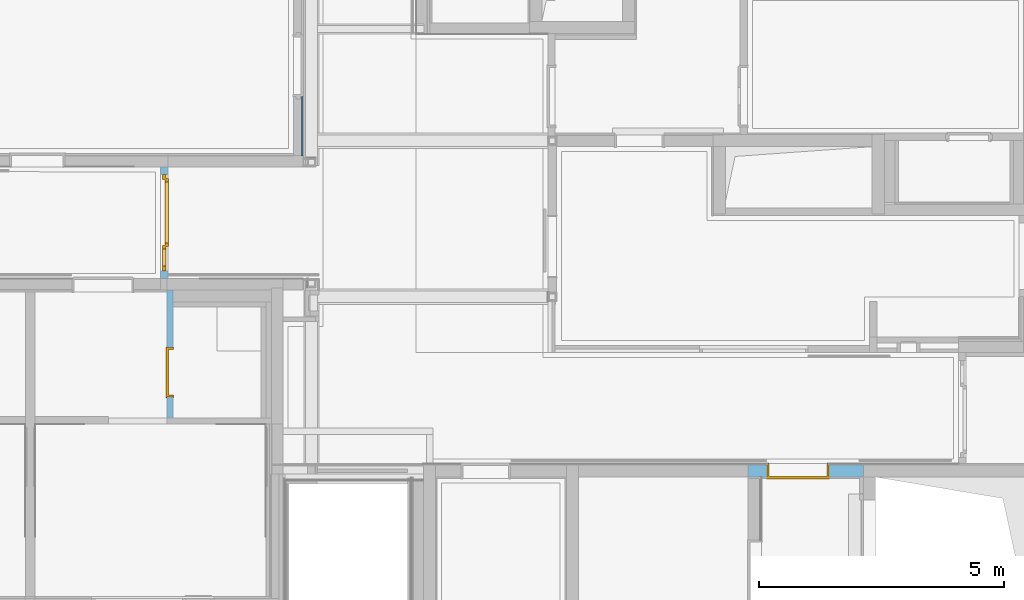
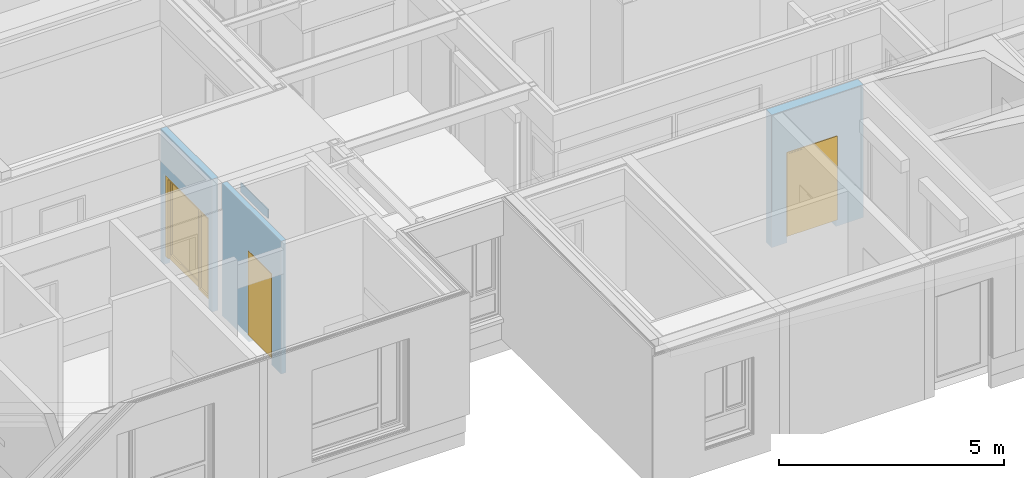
# One storey, part 89 of 207: 3 doors, 1 wall, 3 openings, plus 3 elements that do not belong to this part.
"""IFC4 building model written with IfcOpenShell, lengths in metres."""

import ifcopenshell
import ifcopenshell.guid

model = None  # the IFC model being written
_history = None  # IfcOwnerHistory: only IFC2X3 demands one
_inside = {}  # id of a spatial element -> (the spatial element, [elements in it])
_under = {}  # id of a project, library or spatial element -> (it, [spatial elements below it])
_declared = {}  # id of a project -> (the project, [libraries it declares])
_typed = {}  # id of a type object -> (the type object, [elements of that type])
_made_of = {}  # id of a material, layer set ... -> (it, [elements and type objects made of it])


def new_model(schema):
    """Start an empty IFC model of exactly this schema.

    Asked for "IFC4X3", IfcOpenShell would pick the latest addendum, in which some entities
    have other attributes; the version numbers below select the first issue.
    IFC2X3 requires an IfcOwnerHistory on every rooted entity: one is made here for all.
    """
    global model, _history
    if schema == "IFC4X3":
        model = ifcopenshell.file(schema_version=(4, 3, 0, 0))
    else:
        model = ifcopenshell.file(schema=schema)
    _inside.clear()
    _under.clear()
    _declared.clear()
    _typed.clear()
    _made_of.clear()
    _history = None
    if model.schema == "IFC2X3":
        org = make("IfcOrganization", Name="unknown")
        user = make(
            "IfcPersonAndOrganization",
            ThePerson=make("IfcPerson", FamilyName="unknown"),
            TheOrganization=org,
        )
        app = make(
            "IfcApplication",
            ApplicationDeveloper=org,
            Version="unknown",
            ApplicationFullName="unknown",
            ApplicationIdentifier="unknown",
        )
        _history = make(
            "IfcOwnerHistory",
            OwningUser=user,
            OwningApplication=app,
            ChangeAction="ADDED",
            CreationDate=0,
        )
    return model


def make(cls, **values):
    """One entity of the class cls with the attributes given. An attribute that is None is left unset."""
    return model.create_entity(
        cls, **{name: value for name, value in values.items() if value is not None}
    )


def entity(cls, *values):
    """Any entity or typed value of the class cls, its attributes in the order of the schema. None: left unset."""
    e = model.create_entity(cls)
    for i, value in enumerate(values):
        if value is not None:
            e[i] = value
    return e


def rooted(cls, **values):
    """An entity with a GlobalId (a new one), such as an element, a storey or a relation."""
    return make(cls, GlobalId=ifcopenshell.guid.new(), OwnerHistory=_history, **values)


def si_unit(unit_type, name, prefix=None):
    """IfcSIUnit, for example si_unit("LENGTHUNIT", "METRE", prefix="MILLI")."""
    return make("IfcSIUnit", UnitType=unit_type, Prefix=prefix, Name=name)


def converted_unit(unit_type, name, factor, base, dimensions=None, offset=None):
    """IfcConversionBasedUnit, such as the inch: factor (a typed value) times the base unit."""
    return make(
        "IfcConversionBasedUnit"
        if offset is None
        else "IfcConversionBasedUnitWithOffset",
        ConversionOffset=offset,
        Dimensions=None
        if dimensions is None
        else entity("IfcDimensionalExponents", *dimensions),
        UnitType=unit_type,
        Name=name,
        ConversionFactor=make(
            "IfcMeasureWithUnit", ValueComponent=factor, UnitComponent=base
        ),
    )


def derived_unit(unit_type, elements):
    """IfcDerivedUnit: a product of units, each with its exponent."""
    return make(
        "IfcDerivedUnit",
        Elements=[
            make("IfcDerivedUnitElement", Unit=unit, Exponent=power)
            for unit, power in elements
        ],
        UnitType=unit_type,
    )


def assignment(units):
    """IfcUnitAssignment: the units of a project."""
    return None if units is None else make("IfcUnitAssignment", Units=units)


def point(xyz):
    """IfcCartesianPoint."""
    return None if xyz is None else make("IfcCartesianPoint", Coordinates=xyz)


def direction(xyz):
    """IfcDirection."""
    return None if xyz is None else make("IfcDirection", DirectionRatios=xyz)


def frame(location, z_axis=None, x_axis=None):
    """IfcAxis2Placement3D, a coordinate frame: its origin and axes. An axis left out is left unset."""
    return make(
        "IfcAxis2Placement3D",
        Location=point(location),
        Axis=direction(z_axis),
        RefDirection=direction(x_axis),
    )


def frame_2d(location, x_axis=None):
    """IfcAxis2Placement2D, a coordinate frame in the plane: its origin and x axis."""
    return make(
        "IfcAxis2Placement2D", Location=point(location), RefDirection=direction(x_axis)
    )


def origin():
    """The frame at (0, 0, 0) with its axes left unset."""
    return frame((0.0, 0.0, 0.0))


def origin_with_axes():
    """The frame at (0, 0, 0) with the z axis (0, 0, 1) and the x axis (1, 0, 0) written out."""
    return frame((0.0, 0.0, 0.0), z_axis=(0.0, 0.0, 1.0), x_axis=(1.0, 0.0, 0.0))


def place(relative_to, where):
    """IfcLocalPlacement: puts the frame where relative to a parent placement (None: the world)."""
    return make(
        "IfcLocalPlacement", PlacementRelTo=relative_to, RelativePlacement=where
    )


def context(
    kind, dimensions, precision=None, world=None, true_north=None, identifier=None
):
    """IfcGeometricRepresentationContext, for example the 3D "Model" context."""
    return make(
        "IfcGeometricRepresentationContext",
        ContextIdentifier=identifier,
        ContextType=kind,
        CoordinateSpaceDimension=dimensions,
        Precision=precision,
        WorldCoordinateSystem=world,
        TrueNorth=true_north,
    )


def subcontext(parent, identifier, kind, view, scale=None):
    """IfcGeometricRepresentationSubContext, for example "Body" below "Model"."""
    return make(
        "IfcGeometricRepresentationSubContext",
        ContextIdentifier=identifier,
        ContextType=kind,
        ParentContext=parent,
        TargetScale=scale,
        TargetView=view,
    )


def project(units=None, contexts=None):
    """IfcProject with its units and contexts."""
    return rooted(
        "IfcProject",
        Name="project",
        RepresentationContexts=contexts,
        UnitsInContext=assignment(units),
    )


def spatial(cls, under=None, at=None, **own):
    """A site, building, storey or space (cls), placed at a placement, below another one or the project."""
    s = rooted(cls, ObjectPlacement=at, **own)
    if under is not None:
        _under.setdefault(under.id(), (under, []))[1].append(s)
    return s


def polyline(points):
    """IfcPolyline through the points."""
    return make("IfcPolyline", Points=[point(p) for p in points])


def profile(cls, at=None, kind="AREA", **sizes):
    """A parametric profile (cls). Its sizes go by their IFC names, for example OverallWidth=200.0."""
    return make(cls, ProfileType=kind, Position=at, **sizes)


def rectangle(**sizes):
    """IfcRectangleProfileDef."""
    return profile("IfcRectangleProfileDef", **sizes)


def outline(outer, holes=None, kind="AREA"):
    """IfcArbitraryClosedProfileDef: a profile drawn as a closed curve; with holes, ...WithVoids."""
    if holes is None:
        return make("IfcArbitraryClosedProfileDef", ProfileType=kind, OuterCurve=outer)
    return make(
        "IfcArbitraryProfileDefWithVoids",
        ProfileType=kind,
        OuterCurve=outer,
        InnerCurves=holes,
    )


def extrude(swept, where, along, depth):
    """IfcExtrudedAreaSolid: the profile swept, set in the frame where, extruded along a direction by depth."""
    return make(
        "IfcExtrudedAreaSolid",
        SweptArea=swept,
        Position=where,
        ExtrudedDirection=direction(along),
        Depth=depth,
    )


def faces_of(points, faces, orient=None, outer=None):
    """IfcFace entities. A face is a list of loops; a loop is a list of indices into points, from 0.

    orient and outer hold one flag for each loop. By default every Orientation is true, the
    first loop of a face is its IfcFaceOuterBound and the others are IfcFaceBound.
    """
    made = []
    for i, loops in enumerate(faces):
        bounds = []
        for j, loop in enumerate(loops):
            is_outer = j == 0 if outer is None else outer[i][j]
            bounds.append(
                make(
                    "IfcFaceOuterBound" if is_outer else "IfcFaceBound",
                    Bound=make("IfcPolyLoop", Polygon=[points[k] for k in loop]),
                    Orientation=True if orient is None else orient[i][j],
                )
            )
        made.append(make("IfcFace", Bounds=bounds))
    return made


def closed_shell(faces, orient=None, outer=None):
    """The faces of one IfcClosedShell. faceted_brep and surface_model build it on their shared points."""
    return ("IfcClosedShell", faces, orient, outer)


def open_shell(faces, orient=None, outer=None):
    """The faces of one IfcOpenShell. surface_model builds it on its shared points."""
    return ("IfcOpenShell", faces, orient, outer)


def faceted_brep(points, faces, orient=None, outer=None, voids=None):
    """IfcFacetedBrep: a solid bounded by flat faces; with voids (closed shells), ...WithVoids."""
    shared = [point(p) for p in points]
    hull = make("IfcClosedShell", CfsFaces=faces_of(shared, faces, orient, outer))
    if voids is None:
        return make("IfcFacetedBrep", Outer=hull)
    return make(
        "IfcFacetedBrepWithVoids",
        Outer=hull,
        Voids=[
            make(cls, CfsFaces=faces_of(shared, fs, o, b)) for cls, fs, o, b in voids
        ],
    )


def surface_model(cls, points, shells):
    """IfcFaceBasedSurfaceModel or IfcShellBasedSurfaceModel (cls): surfaces that need not close."""
    shared = [point(p) for p in points]
    made = [make(c, CfsFaces=faces_of(shared, fs, o, b)) for c, fs, o, b in shells]
    if cls == "IfcFaceBasedSurfaceModel":
        return make(cls, FbsmFaces=made)
    return make(cls, SbsmBoundary=made)


def shape(context_of_items, identifier, shape_type, items):
    """IfcShapeRepresentation: the items that make up one representation, for example the "Body"."""
    return make(
        "IfcShapeRepresentation",
        ContextOfItems=context_of_items,
        RepresentationIdentifier=identifier,
        RepresentationType=shape_type,
        Items=items,
    )


def source(mapping_origin, context_of_items, identifier, shape_type, items):
    """IfcRepresentationMap: a shape defined once, which mapped items show again and again."""
    return make(
        "IfcRepresentationMap",
        MappingOrigin=mapping_origin,
        MappedRepresentation=shape(context_of_items, identifier, shape_type, items),
    )


def transform(
    local_origin,
    x_axis=None,
    y_axis=None,
    z_axis=None,
    scale=None,
    scale2=None,
    scale3=None,
    uniform=True,
):
    """IfcCartesianTransformationOperator3D, or its non-uniform kind. x_axis, y_axis, z_axis: its Axis1, 2, 3."""
    if uniform:
        return make(
            "IfcCartesianTransformationOperator3D",
            Axis1=direction(x_axis),
            Axis2=direction(y_axis),
            LocalOrigin=point(local_origin),
            Scale=scale,
            Axis3=direction(z_axis),
        )
    return make(
        "IfcCartesianTransformationOperator3DnonUniform",
        Axis1=direction(x_axis),
        Axis2=direction(y_axis),
        LocalOrigin=point(local_origin),
        Scale=scale,
        Axis3=direction(z_axis),
        Scale2=scale2,
        Scale3=scale3,
    )


def mapped(mapping_source, mapping_target):
    """IfcMappedItem: shows the shape of a source again, moved by a transform."""
    return make(
        "IfcMappedItem", MappingSource=mapping_source, MappingTarget=mapping_target
    )


def material(Name=None, Category=None):
    """IfcMaterial."""
    return make("IfcMaterial", Name=Name, Category=Category)


def made_of(thing, what):
    """Note that an element or type object is made of a material, layer set ...; save() writes the relation."""
    if what is not None:
        _made_of.setdefault(what.id(), (what, []))[1].append(thing)
    return thing


def type_object(cls, material=None, **own):
    """A type object (cls), such as IfcWallType, which elements share."""
    return made_of(rooted(cls, **own), material)


def element(
    cls,
    number,
    at=None,
    inside=None,
    cuts=None,
    type_object=None,
    material=None,
    context=None,
    identifier="Body",
    shape_type=None,
    held_by="IfcProductDefinitionShape",
    body=None,
    shapes=None,
    **own,
):
    """One element of the class cls, such as IfcWall. Its Tag is "e" and its number.

    at: its placement. inside: the storey or other place that contains it. cuts: it is an
    opening in that element (IfcRelVoidsElement). A single representation is given by context,
    identifier, shape_type and body (its items); several are given by shapes. held_by: the class
    of the entity that holds the representations. save() writes the other relations.
    """
    e = rooted(cls, Tag="e%d" % number, ObjectPlacement=at, **own)
    if body is not None:
        shapes = [shape(context, identifier, shape_type, body)]
    if shapes is not None:
        e.Representation = make(held_by, Representations=shapes)
    if inside is not None:
        _inside.setdefault(inside.id(), (inside, []))[1].append(e)
    if cuts is not None:
        rooted(
            "IfcRelVoidsElement", RelatingBuildingElement=cuts, RelatedOpeningElement=e
        )
    if type_object is not None:
        _typed.setdefault(type_object.id(), (type_object, []))[1].append(e)
    return made_of(e, material)


def fill(opening, filler):
    """IfcRelFillsElement: the door or window that sits in an opening."""
    return rooted(
        "IfcRelFillsElement",
        RelatingOpeningElement=opening,
        RelatedBuildingElement=filler,
    )


def aggregate(whole, parts):
    """IfcRelAggregates: a whole, such as a stair, and the parts it consists of."""
    return rooted("IfcRelAggregates", RelatingObject=whole, RelatedObjects=parts)


def save(model, path):
    """Write the relations noted so far, then the file.

    IfcRelAggregates (storeys below a building ...), IfcRelContainedInSpatialStructure (elements
    in a storey), IfcRelDefinesByType, IfcRelAssociatesMaterial and IfcRelDeclares: one each for
    every whole, place, type object, material and project.
    """
    for whole, parts in _under.values():
        aggregate(whole, parts)
    for where, things in _inside.values():
        rooted(
            "IfcRelContainedInSpatialStructure",
            RelatedElements=things,
            RelatingStructure=where,
        )
    for kind, things in _typed.values():
        rooted("IfcRelDefinesByType", RelatedObjects=things, RelatingType=kind)
    for what, things in _made_of.values():
        rooted("IfcRelAssociatesMaterial", RelatedObjects=things, RelatingMaterial=what)
    for by, libraries in _declared.values():
        rooted("IfcRelDeclares", RelatingContext=by, RelatedDefinitions=libraries)
    model.write(path)


model = new_model("IFC4")

# Units and contexts
model_context = context("Model", 3, precision=1e-05, world=origin())
body_context = subcontext(model_context, "Body", "Model", "MODEL_VIEW")
ifc_project = project(units=[si_unit("LENGTHUNIT", "METRE"), si_unit("AREAUNIT", "SQUARE_METRE"), si_unit("VOLUMEUNIT", "CUBIC_METRE"), si_unit("MASSUNIT", "GRAM", prefix="KILO"), converted_unit("PLANEANGLEUNIT", "DEGREE", entity("IfcPlaneAngleMeasure", 0.0174532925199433), si_unit("PLANEANGLEUNIT", "RADIAN"), dimensions=[0, 0, 0, 0, 0, 0, 0]), derived_unit("THERMALTRANSMITTANCEUNIT", [(si_unit("POWERUNIT", "WATT"), 1), (si_unit("THERMODYNAMICTEMPERATUREUNIT", "KELVIN"), -1), (si_unit("LENGTHUNIT", "METRE"), -2)]), derived_unit("VOLUMETRICFLOWRATEUNIT", [(si_unit("LENGTHUNIT", "METRE"), 3), (converted_unit("TIMEUNIT", "hour", entity("IfcTimeMeasure", 3600.0), si_unit("TIMEUNIT", "SECOND"), dimensions=[0, 0, 1, 0, 0, 0, 0]), -1), (si_unit("LENGTHUNIT", "METRE"), -1)])], contexts=[model_context])

# Site, building, storey
site_placement = place(None, origin())
site = spatial("IfcSite", under=ifc_project, at=site_placement, Name="Psychiatrie Neubau Wunstorf", CompositionType="ELEMENT")
building_placement = place(site_placement, origin())
building = spatial("IfcBuilding", under=site, at=building_placement, Name="Neubau H2 Stationsgebäude", CompositionType="ELEMENT")
storey_placement = place(building_placement, frame((0.0, 0.0, -0.2)))
storey = spatial("IfcBuildingStorey", under=building, at=storey_placement, Name="H2 Ebene 0", CompositionType="ELEMENT", Elevation=-0.2)

# Wall, opening, door
ifc_material_1 = material(Name="WI-LB")
wall_1_placement = place(storey_placement, frame((32.7925, 4.09874963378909, 0.0), z_axis=(0.0, 0.0, 1.0), x_axis=(0.0, -1.0, 0.0)))
wall_1 = element("IfcWall", 1, at=wall_1_placement, inside=storey, material=ifc_material_1, context=body_context, shape_type="SweptSolid", body=[
    extrude(rectangle(XDim=2.61500000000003, YDim=0.125, at=frame_2d((1.30750000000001, 0.0625), x_axis=(1.0, 0.0))), origin_with_axes(), (0.0, 0.0, 1.0), 3.6),
])
opening_1_placement = place(wall_1_placement, frame((2.19000000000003, 0.125, 0.0), z_axis=(0.0, -1.0, 0.0), x_axis=(0.0, 0.0, 1.0)))
opening_1 = element("IfcOpeningElement", 2, at=opening_1_placement, cuts=wall_1, Name="Türöffnung", ObjectType="Opening", context=body_context, shape_type="SweptSolid", body=[
    extrude(outline(polyline([(2.46, 1.01), (2.46, 0.0), (0.0, 0.0), (0.0, 1.01), (2.46, 1.01)])), origin_with_axes(), (0.0, 0.0, 1.0), 0.125),
])
ifc_material_2 = material(Name="TI-1F-UZ-D-N")
door_type_1 = type_object("IfcDoorType", Name="SMT", OperationType="SINGLE_SWING_RIGHT", ParameterTakesPrecedence=False, PredefinedType="DOOR")
shared_shape_1 = source(origin_with_axes(), body_context, "Body", "Brep", [
    faceted_brep([(-0.0400000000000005, 0.0125000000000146, 0.0), (0.0, 0.0125000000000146, 0.0), (0.0, 0.112500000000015, 0.0), (-0.0400000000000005, 0.112500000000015, 0.0), (-0.0400000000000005, 0.112500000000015, 3.6), (0.0, 0.112500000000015, 3.6), (0.0, 0.0125000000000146, 3.6), (-0.0400000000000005, 0.0125000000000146, 3.6)], [[[0, 1, 2, 3]], [[4, 5, 6, 7]], [[3, 4, 7, 0]], [[2, 5, 4, 3]], [[1, 6, 5, 2]], [[0, 7, 6, 1]]], orient=[[False], [False], [False], [False], [False], [False]]),
    faceted_brep([(1.01, 0.0125000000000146, 0.0), (1.05, 0.0125000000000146, 0.0), (1.05, 0.112500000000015, 0.0), (1.01, 0.112500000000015, 0.0), (1.01, 0.112500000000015, 3.6), (1.05, 0.112500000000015, 3.6), (1.05, 0.0125000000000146, 3.6), (1.01, 0.0125000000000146, 3.6)], [[[0, 1, 2, 3]], [[4, 5, 6, 7]], [[3, 4, 7, 0]], [[2, 5, 4, 3]], [[1, 6, 5, 2]], [[0, 7, 6, 1]]], orient=[[False], [False], [False], [False], [False], [False]]),
    faceted_brep([(0.0, 0.0125000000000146, 2.46), (1.01, 0.0125000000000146, 2.46), (1.01, 0.112500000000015, 2.46), (0.0, 0.112500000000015, 2.46), (0.0, 0.112500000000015, 2.5), (1.01, 0.112500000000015, 2.5), (1.01, 0.0125000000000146, 2.5), (0.0, 0.0125000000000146, 2.5)], [[[0, 1, 2, 3]], [[4, 5, 6, 7]], [[3, 4, 7, 0]], [[2, 5, 4, 3]], [[1, 6, 5, 2]], [[0, 7, 6, 1]]], orient=[[False], [False], [False], [False], [False], [False]]),
])
shared_shape_2 = source(origin_with_axes(), body_context, "Body", "Brep", [
    faceted_brep([(1.01, -0.0149999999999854, 2.46), (1.01, -0.0149999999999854, 0.2), (0.969999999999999, -0.0149999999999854, 0.2), (0.969999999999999, -0.0149999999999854, 2.46), (1.01, 0.140000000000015, 0.2), (1.01, 0.140000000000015, 2.46), (0.969999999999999, 0.140000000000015, 2.46), (0.969999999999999, 0.140000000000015, 0.2)], [[[0, 1, 2, 3]], [[4, 5, 6, 7]], [[1, 0, 5, 4]], [[2, 1, 4, 7]], [[3, 2, 7, 6]], [[0, 3, 6, 5]]], orient=[[False], [False], [False], [False], [False], [False]]),
    faceted_brep([(1.01, -0.0149999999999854, 2.475), (1.025, -0.0149999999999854, 2.475), (1.025, -0.0149999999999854, 0.2), (1.01, -0.0149999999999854, 0.2), (1.01, 0.0, 0.2), (1.025, 0.0, 0.2), (1.025, 0.0, 2.475), (1.01, 0.0, 2.475)], [[[0, 1, 2, 3]], [[4, 5, 6, 7]], [[3, 4, 7, 0]], [[2, 5, 4, 3]], [[1, 6, 5, 2]], [[0, 7, 6, 1]]], orient=[[False], [False], [False], [False], [False], [False]]),
    faceted_brep([(1.01, 0.125000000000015, 2.475), (1.025, 0.125000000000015, 2.475), (1.025, 0.125000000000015, 0.2), (1.01, 0.125000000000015, 0.2), (1.01, 0.140000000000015, 0.2), (1.025, 0.140000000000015, 0.2), (1.025, 0.140000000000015, 2.475), (1.01, 0.140000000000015, 2.475)], [[[0, 1, 2, 3]], [[4, 5, 6, 7]], [[3, 4, 7, 0]], [[2, 5, 4, 3]], [[1, 6, 5, 2]], [[0, 7, 6, 1]]], orient=[[False], [False], [False], [False], [False], [False]]),
    faceted_brep([(0.0399999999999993, -0.0149999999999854, 2.46), (0.0399999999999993, -0.0149999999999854, 0.2), (0.0, -0.0149999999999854, 0.2), (0.0, -0.0149999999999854, 2.46), (0.0399999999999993, 0.140000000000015, 0.2), (0.0399999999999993, 0.140000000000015, 2.46), (0.0, 0.140000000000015, 2.46), (0.0, 0.140000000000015, 0.2)], [[[0, 1, 2, 3]], [[4, 5, 6, 7]], [[1, 0, 5, 4]], [[2, 1, 4, 7]], [[3, 2, 7, 6]], [[0, 3, 6, 5]]], orient=[[False], [False], [False], [False], [False], [False]]),
    faceted_brep([(0.0, -0.0149999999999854, 2.475), (0.0, -0.0149999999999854, 0.2), (-0.0150000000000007, -0.0149999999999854, 0.2), (-0.0150000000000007, -0.0149999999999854, 2.475), (0.0, 0.0, 0.2), (0.0, 0.0, 2.475), (-0.0150000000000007, 0.0, 2.475), (-0.0150000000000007, 0.0, 0.2)], [[[0, 1, 2, 3]], [[4, 5, 6, 7]], [[1, 0, 5, 4]], [[2, 1, 4, 7]], [[3, 2, 7, 6]], [[0, 3, 6, 5]]], orient=[[False], [False], [False], [False], [False], [False]]),
    faceted_brep([(0.0, 0.125000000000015, 2.475), (0.0, 0.125000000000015, 0.2), (-0.0150000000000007, 0.125000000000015, 0.2), (-0.0150000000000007, 0.125000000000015, 2.475), (0.0, 0.140000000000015, 0.2), (0.0, 0.140000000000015, 2.475), (-0.0150000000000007, 0.140000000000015, 2.475), (-0.0150000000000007, 0.140000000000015, 0.2)], [[[0, 1, 2, 3]], [[4, 5, 6, 7]], [[1, 0, 5, 4]], [[2, 1, 4, 7]], [[3, 2, 7, 6]], [[0, 3, 6, 5]]], orient=[[False], [False], [False], [False], [False], [False]]),
    faceted_brep([(0.969999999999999, -0.0149999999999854, 2.46), (0.969999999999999, -0.0149999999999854, 2.42), (0.0399999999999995, -0.0149999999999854, 2.42), (0.0399999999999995, -0.0149999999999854, 2.46), (0.969999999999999, 0.140000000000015, 2.42), (0.969999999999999, 0.140000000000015, 2.46), (0.0399999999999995, 0.140000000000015, 2.46), (0.0399999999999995, 0.140000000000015, 2.42)], [[[0, 1, 2, 3]], [[4, 5, 6, 7]], [[1, 0, 5, 4]], [[2, 1, 4, 7]], [[3, 2, 7, 6]], [[0, 3, 6, 5]]], orient=[[False], [False], [False], [False], [False], [False]]),
    faceted_brep([(1.01, -0.0149999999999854, 2.475), (1.01, -0.0149999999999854, 2.46), (0.0, -0.0149999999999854, 2.46), (0.0, -0.0149999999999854, 2.475), (1.01, 0.0, 2.46), (1.01, 0.0, 2.475), (0.0, 0.0, 2.475), (0.0, 0.0, 2.46)], [[[0, 1, 2, 3]], [[4, 5, 6, 7]], [[1, 0, 5, 4]], [[2, 1, 4, 7]], [[3, 2, 7, 6]], [[0, 3, 6, 5]]], orient=[[False], [False], [False], [False], [False], [False]]),
    faceted_brep([(1.01, 0.125000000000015, 2.475), (1.01, 0.125000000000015, 2.46), (0.0, 0.125000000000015, 2.46), (0.0, 0.125000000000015, 2.475), (1.01, 0.140000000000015, 2.46), (1.01, 0.140000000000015, 2.475), (0.0, 0.140000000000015, 2.475), (0.0, 0.140000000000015, 2.46)], [[[0, 1, 2, 3]], [[4, 5, 6, 7]], [[1, 0, 5, 4]], [[2, 1, 4, 7]], [[3, 2, 7, 6]], [[0, 3, 6, 5]]], orient=[[False], [False], [False], [False], [False], [False]]),
    faceted_brep([(0.984999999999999, 0.0910000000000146, 2.435), (0.984999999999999, 0.0910000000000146, 0.2), (0.0249999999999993, 0.0910000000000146, 0.2), (0.0249999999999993, 0.0910000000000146, 2.435), (0.984999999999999, 0.141000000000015, 0.2), (0.984999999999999, 0.141000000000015, 2.435), (0.0249999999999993, 0.141000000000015, 2.435), (0.0249999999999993, 0.141000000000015, 0.2)], [[[0, 1, 2, 3]], [[4, 5, 6, 7]], [[1, 0, 5, 4]], [[2, 1, 4, 7]], [[3, 2, 7, 6]], [[0, 3, 6, 5]]], orient=[[False], [False], [False], [False], [False], [False]]),
])
door_1_placement = place(opening_1_placement, frame((0.0, 0.0, 0.0), z_axis=(1.0, 0.0, 0.0), x_axis=(0.0, 1.0, 0.0)))
door_1 = element("IfcDoor", 3, at=door_1_placement, inside=storey, type_object=door_type_1, material=ifc_material_2, Name="SMT", OverallHeight=2.46, OverallWidth=1.01, context=body_context, shape_type="MappedRepresentation", body=[
    mapped(shared_shape_1, transform((0.0, 0.0, 0.0), x_axis=(1.0, 0.0, 0.0), y_axis=(0.0, 1.0, 0.0), z_axis=(0.0, 0.0, 1.0), scale=1.0)),
    mapped(shared_shape_2, transform((0.0, 0.0, 0.0), x_axis=(1.0, 0.0, 0.0), y_axis=(0.0, 1.0, 0.0), z_axis=(0.0, 0.0, 1.0), scale=1.0)),
])
fill(opening_1, door_1)

# Wall
wall_2_placement = place(storey_placement, frame((35.545, 6.83950504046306, 0.0)))
element("IfcWall", 4, at=wall_2_placement, inside=storey, Name="WV 1.1", context=body_context, shape_type="Brep", body=[
    faceted_brep([(0.025, 1.21, 0.0), (0.0, 1.21, 0.0), (0.0, 0.0, 0.0), (0.025, 0.0, 0.0), (0.0, 1.21, 0.25), (0.025, 1.21, 0.25), (0.025, 0.0, 0.25), (0.0, 0.0, 0.25)], [[[0, 1, 2, 3]], [[4, 5, 6, 7]], [[1, 0, 5, 4]], [[2, 1, 4, 7]], [[3, 2, 7, 6]], [[0, 3, 6, 5]]], orient=[[False], [False], [False], [False], [False], [False]]),
])

# Wall, opening, door
ifc_material_3 = material(Name="WI-LB")
wall_3_placement = place(storey_placement, frame((32.6634999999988, 6.612, 0.0), z_axis=(0.0, 0.0, 1.0), x_axis=(0.0, -1.0, 0.0)))
wall_3 = element("IfcWall", 5, at=wall_3_placement, inside=storey, material=ifc_material_3, context=body_context, shape_type="SweptSolid", body=[
    extrude(rectangle(XDim=2.2812503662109, YDim=0.154999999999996, at=frame_2d((1.14062518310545, 0.0774999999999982), x_axis=(1.0, 0.0))), origin_with_axes(), (0.0, 0.0, 1.0), 3.6),
])
opening_2_placement = place(wall_3_placement, frame((0.155000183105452, 0.0, 0.0), z_axis=(0.0, 1.0, 0.0), x_axis=(0.0, 0.0, 1.0)))
opening_2 = element("IfcOpeningElement", 6, at=opening_2_placement, cuts=wall_3, Name="Türöffnung", ObjectType="Opening", context=body_context, shape_type="SweptSolid", body=[
    extrude(outline(polyline([(2.46, 1.97125), (2.46, 0.0), (0.0, 0.0), (0.0, 1.97125), (2.46, 1.97125)])), origin_with_axes(), (0.0, 0.0, 1.0), 0.154999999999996),
])
ifc_material_4 = material(Name="TI-2F-AG-D-O")
shared_shape_3 = source(origin_with_axes(), body_context, "Body", "Brep", [
    faceted_brep([(-0.127499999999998, 0.0854999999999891, 0.0), (-0.127499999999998, -0.0145000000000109, 0.0), (-0.0274999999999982, -0.0145000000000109, 0.0), (-0.0274999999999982, 0.0854999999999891, 0.0), (-0.127499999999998, -0.0145000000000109, 3.6), (-0.127499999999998, 0.0854999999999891, 3.6), (-0.0274999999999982, 0.0854999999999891, 3.6), (-0.0274999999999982, -0.0145000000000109, 3.6)], [[[0, 1, 2, 3]], [[4, 5, 6, 7]], [[1, 0, 5, 4]], [[2, 1, 4, 7]], [[3, 2, 7, 6]], [[0, 3, 6, 5]]], orient=[[False], [False], [False], [False], [False], [False]]),
    faceted_brep([(1.99875, 0.0854999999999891, 0.0), (1.99875, -0.0145000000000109, 0.0), (2.09875, -0.0145000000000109, 0.0), (2.09875, 0.0854999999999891, 0.0), (1.99875, -0.0145000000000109, 3.6), (1.99875, 0.0854999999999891, 3.6), (2.09875, 0.0854999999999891, 3.6), (2.09875, -0.0145000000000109, 3.6)], [[[0, 1, 2, 3]], [[4, 5, 6, 7]], [[1, 0, 5, 4]], [[2, 1, 4, 7]], [[3, 2, 7, 6]], [[0, 3, 6, 5]]], orient=[[False], [False], [False], [False], [False], [False]]),
    faceted_brep([(-0.0274999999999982, 0.0854999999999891, 2.4875), (-0.0274999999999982, -0.0145000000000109, 2.4875), (1.99875, -0.0145000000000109, 2.4875), (1.99875, 0.0854999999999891, 2.4875), (-0.0274999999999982, -0.0145000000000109, 2.5875), (-0.0274999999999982, 0.0854999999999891, 2.5875), (1.99875, 0.0854999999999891, 2.5875), (1.99875, -0.0145000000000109, 2.5875)], [[[0, 1, 2, 3]], [[4, 5, 6, 7]], [[1, 0, 5, 4]], [[2, 1, 4, 7]], [[3, 2, 7, 6]], [[0, 3, 6, 5]]], orient=[[False], [False], [False], [False], [False], [False]]),
])
shared_shape_4 = source(origin_with_axes(), body_context, "Body", "SurfaceModel", [
    surface_model("IfcShellBasedSurfaceModel", [(0.0, 0.000499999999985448, 2.46), (0.100000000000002, 0.000499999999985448, 2.46), (0.100000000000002, 0.000499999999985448, 0.2), (0.0, 0.000499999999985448, 0.2), (0.0, 0.0704999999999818, 0.2), (0.100000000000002, 0.0704999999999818, 0.2), (0.100000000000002, 0.0704999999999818, 2.46), (0.0, 0.0704999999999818, 2.46)], [closed_shell([[[0, 1, 2, 3]], [[4, 5, 6, 7]], [[3, 4, 7, 0]], [[2, 5, 4, 3]], [[1, 6, 5, 2]], [[0, 7, 6, 1]]], orient=[[False], [False], [False], [False], [False], [False]])]),
    surface_model("IfcShellBasedSurfaceModel", [(1.87125, 0.000499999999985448, 2.46), (1.97125, 0.000499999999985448, 2.46), (1.97125, 0.000499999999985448, 0.2), (1.87125, 0.000499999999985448, 0.2), (1.87125, 0.0704999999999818, 0.2), (1.97125, 0.0704999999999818, 0.2), (1.97125, 0.0704999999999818, 2.46), (1.87125, 0.0704999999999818, 2.46)], [closed_shell([[[0, 1, 2, 3]], [[4, 5, 6, 7]], [[3, 4, 7, 0]], [[2, 5, 4, 3]], [[1, 6, 5, 2]], [[0, 7, 6, 1]]], orient=[[False], [False], [False], [False], [False], [False]])]),
    surface_model("IfcShellBasedSurfaceModel", [(0.100000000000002, 0.000499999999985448, 2.46), (1.87125, 0.000499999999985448, 2.46), (1.87125, 0.000499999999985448, 2.36), (0.100000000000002, 0.000499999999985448, 2.36), (0.100000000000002, 0.0704999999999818, 2.36), (1.87125, 0.0704999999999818, 2.36), (1.87125, 0.0704999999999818, 2.46), (0.100000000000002, 0.0704999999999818, 2.46)], [closed_shell([[[0, 1, 2, 3]], [[4, 5, 6, 7]], [[3, 4, 7, 0]], [[2, 5, 4, 3]], [[1, 6, 5, 2]], [[0, 7, 6, 1]]], orient=[[False], [False], [False], [False], [False], [False]])]),
    surface_model("IfcShellBasedSurfaceModel", [(1.45, 0.000499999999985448, 2.36), (1.52, 0.000499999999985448, 2.36), (1.52, 0.000499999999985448, 0.2), (1.45, 0.000499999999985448, 0.2), (1.45, 0.0704999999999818, 0.2), (1.52, 0.0704999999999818, 0.2), (1.52, 0.0704999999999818, 2.36), (1.45, 0.0704999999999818, 2.36)], [closed_shell([[[0, 1, 2, 3]], [[4, 5, 6, 7]], [[3, 4, 7, 0]], [[2, 5, 4, 3]], [[1, 6, 5, 2]], [[0, 7, 6, 1]]], orient=[[False], [False], [False], [False], [False], [False]])]),
    surface_model("IfcShellBasedSurfaceModel", [(0.0800000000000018, 0.0504999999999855, 2.38), (0.150000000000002, 0.0504999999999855, 2.38), (0.150000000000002, 0.0504999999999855, 0.18), (0.0800000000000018, 0.0504999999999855, 0.18), (0.0800000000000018, 0.120499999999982, 0.18), (0.150000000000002, 0.120499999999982, 0.18), (0.150000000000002, 0.120499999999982, 2.38), (0.0800000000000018, 0.120499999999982, 2.38)], [closed_shell([[[0, 1, 2, 3]], [[4, 5, 6, 7]], [[3, 4, 7, 0]], [[2, 5, 4, 3]], [[1, 6, 5, 2]], [[0, 7, 6, 1]]], orient=[[False], [False], [False], [False], [False], [False]])]),
    surface_model("IfcShellBasedSurfaceModel", [(1.4, 0.0504999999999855, 2.38), (1.47, 0.0504999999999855, 2.38), (1.47, 0.0504999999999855, 0.18), (1.4, 0.0504999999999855, 0.18), (1.4, 0.120499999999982, 0.18), (1.47, 0.120499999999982, 0.18), (1.47, 0.120499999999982, 2.38), (1.4, 0.120499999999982, 2.38)], [closed_shell([[[0, 1, 2, 3]], [[4, 5, 6, 7]], [[3, 4, 7, 0]], [[2, 5, 4, 3]], [[1, 6, 5, 2]], [[0, 7, 6, 1]]], orient=[[False], [False], [False], [False], [False], [False]])]),
    surface_model("IfcShellBasedSurfaceModel", [(0.150000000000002, 0.0504999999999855, 0.33), (1.4, 0.0504999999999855, 0.33), (1.4, 0.0504999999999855, 0.18), (0.150000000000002, 0.0504999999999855, 0.18), (0.150000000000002, 0.120499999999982, 0.18), (1.4, 0.120499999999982, 0.18), (1.4, 0.120499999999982, 0.33), (0.150000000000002, 0.120499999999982, 0.33)], [closed_shell([[[0, 1, 2, 3]], [[4, 5, 6, 7]], [[3, 4, 7, 0]], [[2, 5, 4, 3]], [[1, 6, 5, 2]], [[0, 7, 6, 1]]], orient=[[False], [False], [False], [False], [False], [False]])]),
    surface_model("IfcShellBasedSurfaceModel", [(0.150000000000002, 0.0504999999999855, 2.38), (1.4, 0.0504999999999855, 2.38), (1.4, 0.0504999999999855, 2.31), (0.150000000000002, 0.0504999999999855, 2.31), (0.150000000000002, 0.120499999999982, 2.31), (1.4, 0.120499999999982, 2.31), (1.4, 0.120499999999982, 2.38), (0.150000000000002, 0.120499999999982, 2.38)], [closed_shell([[[0, 1, 2, 3]], [[4, 5, 6, 7]], [[3, 4, 7, 0]], [[2, 5, 4, 3]], [[1, 6, 5, 2]], [[0, 7, 6, 1]]], orient=[[False], [False], [False], [False], [False], [False]])]),
    surface_model("IfcShellBasedSurfaceModel", [(1.52, 0.000499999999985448, 0.27), (1.87125, 0.000499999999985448, 0.27), (1.87125, 0.000499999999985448, 0.2), (1.52, 0.000499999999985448, 0.2), (1.52, 0.0704999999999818, 0.2), (1.87125, 0.0704999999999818, 0.2), (1.87125, 0.0704999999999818, 0.27), (1.52, 0.0704999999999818, 0.27)], [closed_shell([[[0, 1, 2, 3]], [[4, 5, 6, 7]], [[3, 4, 7, 0]], [[2, 5, 4, 3]], [[1, 6, 5, 2]], [[0, 7, 6, 1]]], orient=[[False], [False], [False], [False], [False], [False]])]),
    surface_model("IfcShellBasedSurfaceModel", [(0.150000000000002, 0.0854999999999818, 0.33), (0.150000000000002, 0.0854999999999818, 2.31), (1.4, 0.0854999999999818, 2.31), (1.4, 0.0854999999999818, 0.33)], [open_shell([[[0, 1, 2, 3]]], orient=[[False]])]),
    surface_model("IfcShellBasedSurfaceModel", [(1.52, 0.0354999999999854, 0.27), (1.52, 0.0354999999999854, 2.36), (1.87125, 0.0354999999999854, 2.36), (1.87125, 0.0354999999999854, 0.27)], [open_shell([[[0, 1, 2, 3]]], orient=[[False]])]),
])
door_2_placement = place(opening_2_placement, frame((0.0, 0.0, 0.042), z_axis=(1.0, 0.0, 0.0), x_axis=(0.0, 1.0, 0.0)))
door_2 = element("IfcDoor", 7, at=door_2_placement, inside=storey, material=ifc_material_4, Name="SMT", OperationType="USERDEFINED", OverallHeight=2.46, OverallWidth=1.97125, PredefinedType="DOOR", context=body_context, shape_type="MappedRepresentation", body=[
    mapped(shared_shape_3, transform((0.0, 0.0, 0.0), x_axis=(1.0, 0.0, 0.0), y_axis=(0.0, 1.0, 0.0), z_axis=(0.0, 0.0, 1.0), scale=1.0)),
    mapped(shared_shape_4, transform((0.0, 0.0, 0.0), x_axis=(1.0, 0.0, 0.0), y_axis=(0.0, 1.0, 0.0), z_axis=(0.0, 0.0, 1.0), scale=1.0)),
])
fill(opening_2, door_2)

ifc_material_5 = material(Name="WI-STB")
wall_4_placement = place(storey_placement, frame((47.0200048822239, 0.525, 0.0), z_axis=(0.0, 0.0, 1.0), x_axis=(-1.0, 0.0, 0.0)))
wall_4 = element("IfcWall", 8, at=wall_4_placement, inside=storey, material=ifc_material_5, context=body_context, shape_type="SweptSolid", body=[
    extrude(outline(polyline([(-2.35400000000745, -0.25), (0.0, -0.25), (0.0, 0.0), (-2.27400000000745, 0.0), (-2.35400000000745, 0.0), (-2.35400000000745, -0.25)])), frame((2.35400000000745, 0.25, 0.0), z_axis=(0.0, 0.0, 1.0), x_axis=(1.0, 0.0, 0.0)), (0.0, 0.0, 1.0), 3.6),
])
opening_3_placement = place(wall_4_placement, frame((1.96500000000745, 0.25, 0.0), z_axis=(0.0, -1.0, 0.0), x_axis=(0.0, 0.0, 1.0)))
opening_3 = element("IfcOpeningElement", 9, at=opening_3_placement, cuts=wall_4, Name="Türöffnung", ObjectType="Opening", context=body_context, shape_type="SweptSolid", body=[
    extrude(outline(polyline([(2.46, 1.26), (2.46, 0.0), (0.0, 0.0), (0.0, 1.26), (2.46, 1.26)])), origin_with_axes(), (0.0, 0.0, 1.0), 0.25),
])
ifc_material_6 = material(Name="TI-1F-UZ-M-ZK")
door_type_2 = type_object("IfcDoorType", Name="SMT", OperationType="SINGLE_SWING_RIGHT", ParameterTakesPrecedence=False, PredefinedType="DOOR")
shared_shape_5 = source(origin_with_axes(), body_context, "Body", "Brep", [
    faceted_brep([(1.26, -0.0150000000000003, 2.46), (1.26, -0.015, 0.2), (1.22, -0.015, 0.2), (1.22, -0.0150000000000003, 2.46), (1.26, 0.314, 0.2), (1.26, 0.314, 2.46), (1.22, 0.314, 2.46), (1.22, 0.314, 0.2)], [[[0, 1, 2, 3]], [[4, 5, 6, 7]], [[1, 0, 5, 4]], [[2, 1, 4, 7]], [[3, 2, 7, 6]], [[0, 3, 6, 5]]], orient=[[False], [False], [False], [False], [False], [False]]),
    faceted_brep([(1.26, -0.0150000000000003, 2.475), (1.275, -0.0150000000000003, 2.475), (1.275, -0.015, 0.2), (1.26, -0.015, 0.2), (1.26, 0.0, 0.2), (1.275, 0.0, 0.2), (1.275, 0.0, 2.475), (1.26, 0.0, 2.475)], [[[0, 1, 2, 3]], [[4, 5, 6, 7]], [[3, 4, 7, 0]], [[2, 5, 4, 3]], [[1, 6, 5, 2]], [[0, 7, 6, 1]]], orient=[[False], [False], [False], [False], [False], [False]]),
    faceted_brep([(1.26, 0.299, 2.475), (1.275, 0.299, 2.475), (1.275, 0.299, 0.2), (1.26, 0.299, 0.2), (1.26, 0.314, 0.2), (1.275, 0.314, 0.2), (1.275, 0.314, 2.475), (1.26, 0.314, 2.475)], [[[0, 1, 2, 3]], [[4, 5, 6, 7]], [[3, 4, 7, 0]], [[2, 5, 4, 3]], [[1, 6, 5, 2]], [[0, 7, 6, 1]]], orient=[[False], [False], [False], [False], [False], [False]]),
    faceted_brep([(0.04, -0.0150000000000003, 2.46), (0.04, -0.015, 0.2), (0.0, -0.015, 0.2), (0.0, -0.0150000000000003, 2.46), (0.04, 0.314, 0.2), (0.04, 0.314, 2.46), (0.0, 0.314, 2.46), (0.0, 0.314, 0.2)], [[[0, 1, 2, 3]], [[4, 5, 6, 7]], [[1, 0, 5, 4]], [[2, 1, 4, 7]], [[3, 2, 7, 6]], [[0, 3, 6, 5]]], orient=[[False], [False], [False], [False], [False], [False]]),
    faceted_brep([(0.0, -0.0150000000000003, 2.475), (0.0, -0.015, 0.2), (-0.015, -0.015, 0.2), (-0.015, -0.0150000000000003, 2.475), (0.0, 0.0, 0.2), (0.0, 0.0, 2.475), (-0.015, 0.0, 2.475), (-0.015, 0.0, 0.2)], [[[0, 1, 2, 3]], [[4, 5, 6, 7]], [[1, 0, 5, 4]], [[2, 1, 4, 7]], [[3, 2, 7, 6]], [[0, 3, 6, 5]]], orient=[[False], [False], [False], [False], [False], [False]]),
    faceted_brep([(0.0, 0.299, 2.475), (0.0, 0.299, 0.2), (-0.015, 0.299, 0.2), (-0.015, 0.299, 2.475), (0.0, 0.314, 0.2), (0.0, 0.314, 2.475), (-0.015, 0.314, 2.475), (-0.015, 0.314, 0.2)], [[[0, 1, 2, 3]], [[4, 5, 6, 7]], [[1, 0, 5, 4]], [[2, 1, 4, 7]], [[3, 2, 7, 6]], [[0, 3, 6, 5]]], orient=[[False], [False], [False], [False], [False], [False]]),
    faceted_brep([(1.22, -0.0150000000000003, 2.46), (1.22, -0.0150000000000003, 2.42), (0.04, -0.0150000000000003, 2.42), (0.04, -0.0150000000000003, 2.46), (1.22, 0.314, 2.42), (1.22, 0.314, 2.46), (0.04, 0.314, 2.46), (0.04, 0.314, 2.42)], [[[0, 1, 2, 3]], [[4, 5, 6, 7]], [[1, 0, 5, 4]], [[2, 1, 4, 7]], [[3, 2, 7, 6]], [[0, 3, 6, 5]]], orient=[[False], [False], [False], [False], [False], [False]]),
    faceted_brep([(1.26, -0.0150000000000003, 2.475), (1.26, -0.0150000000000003, 2.46), (0.0, -0.0150000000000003, 2.46), (0.0, -0.0150000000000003, 2.475), (1.26, 0.0, 2.46), (1.26, 0.0, 2.475), (0.0, 0.0, 2.475), (0.0, 0.0, 2.46)], [[[0, 1, 2, 3]], [[4, 5, 6, 7]], [[1, 0, 5, 4]], [[2, 1, 4, 7]], [[3, 2, 7, 6]], [[0, 3, 6, 5]]], orient=[[False], [False], [False], [False], [False], [False]]),
    faceted_brep([(1.26, 0.299, 2.475), (1.26, 0.299, 2.46), (0.0, 0.299, 2.46), (0.0, 0.299, 2.475), (1.26, 0.314, 2.46), (1.26, 0.314, 2.475), (0.0, 0.314, 2.475), (0.0, 0.314, 2.46)], [[[0, 1, 2, 3]], [[4, 5, 6, 7]], [[1, 0, 5, 4]], [[2, 1, 4, 7]], [[3, 2, 7, 6]], [[0, 3, 6, 5]]], orient=[[False], [False], [False], [False], [False], [False]]),
    faceted_brep([(1.235, 0.265, 2.435), (1.235, 0.265, 0.2), (0.025, 0.265, 0.2), (0.025, 0.265, 2.435), (1.235, 0.315, 0.2), (1.235, 0.315, 2.435), (0.025, 0.315, 2.435), (0.025, 0.315, 0.2)], [[[0, 1, 2, 3]], [[4, 5, 6, 7]], [[1, 0, 5, 4]], [[2, 1, 4, 7]], [[3, 2, 7, 6]], [[0, 3, 6, 5]]], orient=[[False], [False], [False], [False], [False], [False]]),
])
door_3_placement = place(opening_3_placement, frame((0.0, 1.26, 0.274), z_axis=(1.0, 0.0, 0.0), x_axis=(0.0, -1.0, 0.0)))
door_3 = element("IfcDoor", 10, at=door_3_placement, inside=storey, type_object=door_type_2, material=ifc_material_6, Name="SMT", OverallHeight=2.46, OverallWidth=1.26, context=body_context, shape_type="MappedRepresentation", body=[
    mapped(shared_shape_5, transform((0.0, 0.0, 0.0), x_axis=(1.0, 0.0, 0.0), y_axis=(0.0, 1.0, 0.0), z_axis=(0.0, 0.0, 1.0), scale=1.0)),
])
fill(opening_3, door_3)

save(model, "model.ifc")
